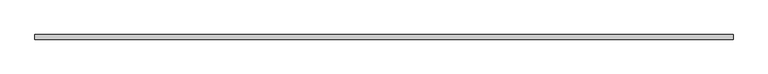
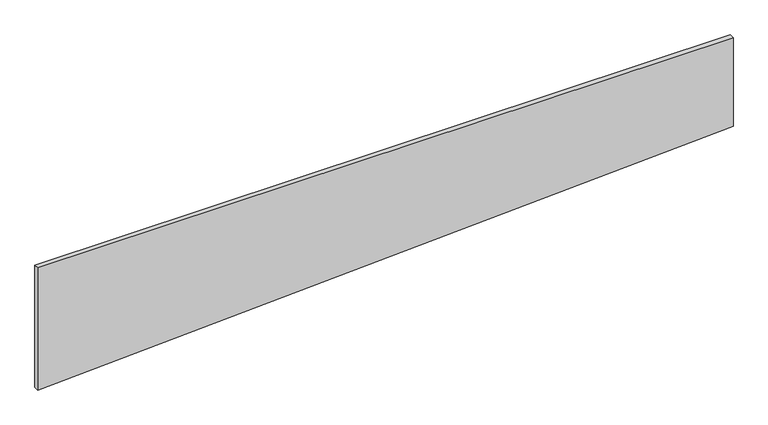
"""IFC4 building model written with IfcOpenShell, lengths in millimetres: plate geometry, 系統嵌板 : 玻璃 1.0cm."""

from ifc_helpers import new_model, si_unit, frame, origin, place, context, project, spatial, polyline, outline, extrude, source, transform, mapped, element, save


def plate_363c17fb(model_context):
    return source(origin(), model_context, "Body", "SweptSolid", [
        extrude(outline(polyline([(0.0, -750.0), (76.2084373, 750.0), (278.6295558, 750.0), (278.6295558, -750.0), (0.0, -750.0)])), frame((0.0, -5.0, 0.0), z_axis=(0.0, 1.0, 0.0), x_axis=(0.0, 0.0, 1.0)), (0.0, 0.0, 1.0), 10.0),
    ])


if __name__ == "__main__":
    model = new_model("IFC4")
    model_context = context("Model", 3, world=origin())
    ifc_project = project(units=[si_unit("LENGTHUNIT", "METRE", prefix="MILLI")], contexts=[model_context])
    site = spatial("IfcSite", under=ifc_project)
    building = spatial("IfcBuilding", under=site)
    placement = place(None, origin())
    plate_shape = plate_363c17fb(model_context)
    element("IfcPlate", 1, ObjectType="系統嵌板 : 玻璃 1.0cm", at=placement, inside=building, context=model_context, shape_type="MappedRepresentation", body=[
        mapped(plate_shape, transform((0.0, 0.0, 0.0), x_axis=(1.0, 0.0, 0.0), y_axis=(0.0, 1.0, 0.0), z_axis=(0.0, 0.0, 1.0))),
    ])
    save(model, "model.ifc")
